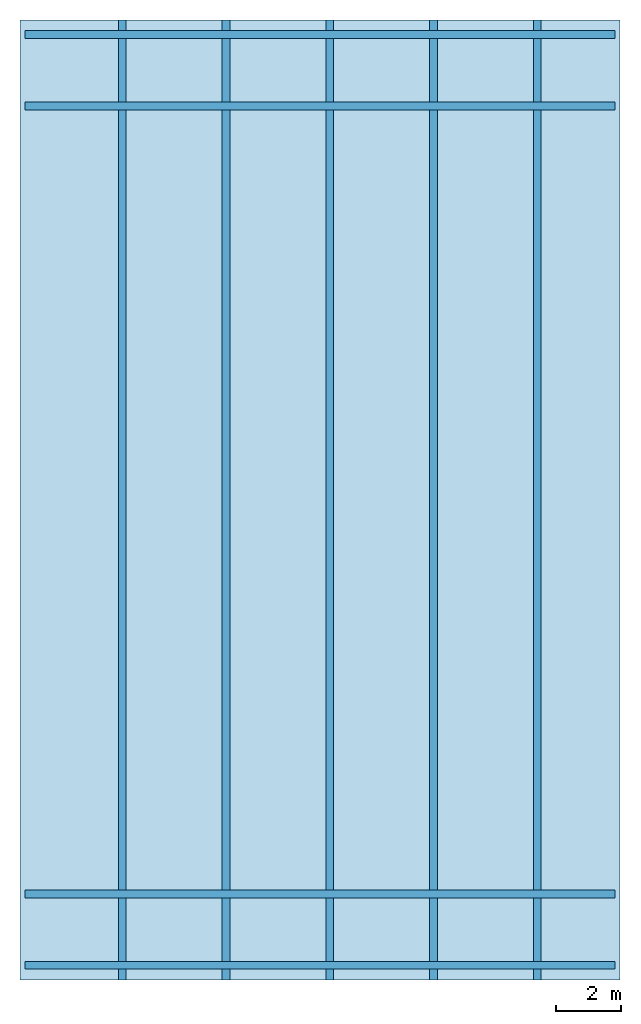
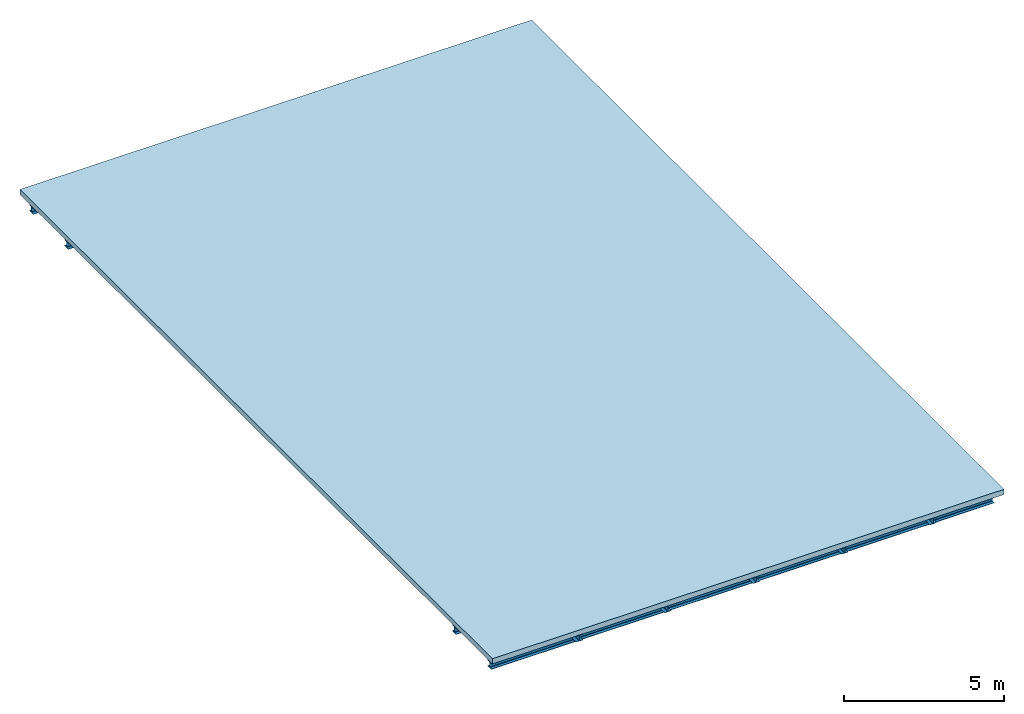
# One storey: 9 beams, 1 slab, 1 element without a shape of its own.
"""IFC2X3 building model written with IfcOpenShell, lengths in millimetres."""

from ifc_helpers import new_model, entity, si_unit, converted_unit, direction, frame, frame_2d, origin, place, context, subcontext, project, spatial, rectangle, i_section, extrude, material, layer, layer_set, type_object, element, aggregate, save


model = new_model("IFC2X3")

# Units and contexts
model_context = context("Model", 3, precision=0.01, world=origin(), true_north=direction((6.123233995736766e-17, 1.0)))
body_context = subcontext(model_context, "Body", "Model", "MODEL_VIEW")
ifc_project = project(units=[si_unit("LENGTHUNIT", "METRE", prefix="MILLI"), si_unit("AREAUNIT", "SQUARE_METRE"), converted_unit("PLANEANGLEUNIT", "DEGREE", entity("IfcPlaneAngleMeasure", 0.017453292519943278), si_unit("PLANEANGLEUNIT", "RADIAN"), dimensions=[0, 0, 0, 0, 0, 0, 0])], contexts=[model_context])

# Site, building, storey
site_placement = place(None, origin())
site = spatial("IfcSite", under=ifc_project, at=site_placement, Name="Default", CompositionType="ELEMENT")
building_placement = place(site_placement, origin())
building = spatial("IfcBuilding", under=site, at=building_placement, CompositionType="ELEMENT")
storey_placement = place(building_placement, frame((0.0, 0.0, 33630.0)))
storey = spatial("IfcBuildingStorey", under=building, at=storey_placement, Name="Dak toneeltoren", CompositionType="ELEMENT", Elevation=33629.99999999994)

# Beams
ifc_material_1 = material(Name="Staal PBTA")
beam_type_1 = type_object("IfcBeamType", Name="H-Balk:HEA240", PredefinedType="BEAM")
beam_1_placement = place(storey_placement, frame((12936.744931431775, 9731.167906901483, 0.0), z_axis=(0.0, 0.0, 1.0), x_axis=(0.0, 1.0, 0.0)))
element("IfcBeam", 1, at=beam_1_placement, inside=storey, type_object=beam_type_1, material=ifc_material_1, Name="H-Balk:HEA240", ObjectType="H-Balk:HEA240", context=body_context, shape_type="SweptSolid", body=[
    extrude(i_section(OverallWidth=240.00000000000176, OverallDepth=229.9999999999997, WebThickness=7.50000000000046, FlangeThickness=11.999999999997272, FilletRadius=20.999999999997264, at=frame_2d((0.0, -1.0871303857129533e-12), x_axis=(0.0, 1.0))), frame((0.0, 0.0, -115.0), z_axis=(1.0, 0.0, 0.0), x_axis=(0.0, 0.0, -1.0)), (0.0, 0.0, 1.0), 29600.000000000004),
])
for number, where, z_axis, x_axis, name in (
    (2, (16136.744931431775, 9731.167906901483, 0.0), (0.0, 0.0, 1.0), (0.0, 1.0, 0.0), "H-Balk:HEA240"),
    (3, (19336.744931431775, 9731.167906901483, 0.0), (0.0, 0.0, 1.0), (0.0, 1.0, 0.0), "H-Balk:HEA240"),
):
    element("IfcBeam", number, at=place(storey_placement, frame(where, z_axis=z_axis, x_axis=x_axis)), inside=storey, type_object=beam_type_1, material=ifc_material_1, Name=name, ObjectType="H-Balk:HEA240", context=body_context, shape_type="SweptSolid", body=[
        extrude(i_section(OverallWidth=240.00000000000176, OverallDepth=229.9999999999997, WebThickness=7.50000000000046, FlangeThickness=11.999999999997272, FilletRadius=20.999999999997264, at=frame_2d((0.0, 1.0871303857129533e-12), x_axis=(0.0, 1.0))), frame((0.0, 0.0, -115.0), z_axis=(1.0, 0.0, 0.0), x_axis=(0.0, 0.0, -1.0)), (0.0, 0.0, 1.0), 29600.000000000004),
    ])
beam_2_placement = place(storey_placement, frame((22536.74493143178, 9731.167906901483, 0.0), z_axis=(0.0, 0.0, 1.0), x_axis=(0.0, 1.0, 0.0)))
element("IfcBeam", 4, at=beam_2_placement, inside=storey, type_object=beam_type_1, material=ifc_material_1, Name="H-Balk:HEA240", ObjectType="H-Balk:HEA240", context=body_context, shape_type="SweptSolid", body=[
    extrude(i_section(OverallWidth=239.9999999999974, OverallDepth=229.9999999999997, WebThickness=7.500000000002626, FlangeThickness=11.999999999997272, FilletRadius=20.999999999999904, at=frame_2d((0.0, 2.1671553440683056e-12), x_axis=(0.0, 1.0))), frame((0.0, 0.0, -115.0), z_axis=(1.0, 0.0, 0.0), x_axis=(0.0, 0.0, -1.0)), (0.0, 0.0, 1.0), 29600.000000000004),
])
beam_type_2 = type_object("IfcBeamType", Name="H-Balk:HEB240", PredefinedType="BEAM")
beam_3_placement = place(storey_placement, frame((9736.744931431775, 9731.167906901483, 10.0), z_axis=(0.0, 0.0, 1.0), x_axis=(0.0, 1.0, 0.0)))
element("IfcBeam", 5, at=beam_3_placement, inside=storey, type_object=beam_type_2, material=ifc_material_1, Name="H-Balk:HEB240", ObjectType="H-Balk:HEB240", context=body_context, shape_type="SweptSolid", body=[
    extrude(i_section(OverallWidth=240.00000000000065, OverallDepth=240.00000000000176, WebThickness=9.999999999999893, FlangeThickness=17.0000000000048, FilletRadius=21.000000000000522, at=frame_2d((2.1671553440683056e-12, -1.0871303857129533e-12), x_axis=(0.0, 1.0))), frame((0.0, 0.0, -120.0), z_axis=(1.0, 0.0, 0.0), x_axis=(0.0, 0.0, -1.0)), (0.0, 0.0, 1.0), 29600.000000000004),
])
beam_4_placement = place(storey_placement, frame((6736.744931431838, 38883.66790690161, -230.0)))
element("IfcBeam", 6, at=beam_4_placement, inside=storey, type_object=beam_type_2, material=ifc_material_1, Name="H-Balk:HEB240", ObjectType="H-Balk:HEB240", context=body_context, shape_type="SweptSolid", body=[
    extrude(i_section(OverallWidth=240.00000000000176, OverallDepth=240.00000000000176, WebThickness=10.000000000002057, FlangeThickness=17.000000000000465, FilletRadius=21.000000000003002, at=frame_2d((6.501466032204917e-12, 2.1671553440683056e-12), x_axis=(0.0, 1.0))), frame((0.0, 0.0, -120.0), z_axis=(1.0, 0.0, 0.0), x_axis=(0.0, 0.0, -1.0)), (0.0, 0.0, 1.0), 18200.0),
])
beam_5_placement = place(storey_placement, frame((6736.744931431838, 36683.66790690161, -230.0)))
element("IfcBeam", 7, at=beam_5_placement, inside=storey, type_object=beam_type_2, material=ifc_material_1, Name="H-Balk:HEB240", ObjectType="H-Balk:HEB240", context=body_context, shape_type="SweptSolid", body=[
    extrude(i_section(OverallWidth=240.00000000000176, OverallDepth=240.00000000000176, WebThickness=10.000000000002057, FlangeThickness=17.000000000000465, FilletRadius=21.000000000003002, at=frame_2d((6.501466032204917e-12, -2.1671553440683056e-12), x_axis=(0.0, 1.0))), frame((0.0, 0.0, -120.0), z_axis=(1.0, 0.0, 0.0), x_axis=(0.0, 0.0, -1.0)), (0.0, 0.0, 1.0), 18200.0),
])
beam_6_placement = place(storey_placement, frame((6736.744931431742, 10183.667906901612, -230.0)))
element("IfcBeam", 8, at=beam_6_placement, inside=storey, type_object=beam_type_2, material=ifc_material_1, Name="H-Balk:HEB240", ObjectType="H-Balk:HEB240", context=body_context, shape_type="SweptSolid", body=[
    extrude(i_section(OverallWidth=239.99999999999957, OverallDepth=239.9999999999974, WebThickness=9.999999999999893, FlangeThickness=17.000000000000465, FilletRadius=21.000000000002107, at=frame_2d((4.334310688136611e-12, 1.0871303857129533e-12), x_axis=(0.0, 1.0))), frame((0.0, 0.0, -120.0), z_axis=(1.0, 0.0, 0.0), x_axis=(0.0, 0.0, -1.0)), (0.0, 0.0, 1.0), 18200.0),
])
beam_7_placement = place(storey_placement, frame((6736.744931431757, 12383.667906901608, -230.0)))
element("IfcBeam", 9, at=beam_7_placement, inside=storey, type_object=beam_type_2, material=ifc_material_1, Name="H-Balk:HEB240", ObjectType="H-Balk:HEB240", context=body_context, shape_type="SweptSolid", body=[
    extrude(i_section(OverallWidth=239.99999999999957, OverallDepth=239.9999999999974, WebThickness=9.999999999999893, FlangeThickness=17.000000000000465, FilletRadius=21.000000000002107, at=frame_2d((4.334310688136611e-12, 1.0871303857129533e-12), x_axis=(0.0, 1.0))), frame((0.0, 0.0, -120.0), z_axis=(1.0, 0.0, 0.0), x_axis=(0.0, 0.0, -1.0)), (0.0, 0.0, 1.0), 18200.000000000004),
])

# Roof, slab
ifc_material_2 = material(Name="NL_27_dak")
ifc_layer = layer(ifc_material_2, 200.0)
ifc_layer_set = layer_set([ifc_layer], Name="Basic Roof:NL_27_basis_200")
roof_placement = place(storey_placement, frame((6586.744931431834, 9731.167906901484, 0.0)))
roof = element("IfcRoof", 10, at=roof_placement, inside=storey, material=ifc_layer_set, Name="Basic Roof:NL_27_basis_200", ObjectType="Basic Roof:NL_27_basis_200", ShapeType="NOTDEFINED")
type_product = type_object("IfcTypeProduct", Name="Basic Roof:NL_27_basis_200")
slab_placement = place(roof_placement, origin())
slab = element("IfcSlab", 11, at=slab_placement, type_object=type_product, material=ifc_layer_set, Name="Basic Roof:NL_27_basis_200", ObjectType="Basic Roof:NL_27_basis_200", PredefinedType="ROOF", context=body_context, shape_type="SweptSolid", body=[
    extrude(rectangle(XDim=18504.99999999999, YDim=29599.99999999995, at=frame_2d((-1.8189894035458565e-12, 0.0), x_axis=(1.0, 0.0))), frame((9252.499999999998, 14800.0, 0.0)), (0.0, 0.0, 1.0), 200.0000000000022),
])
aggregate(roof, [slab])

save(model, "model.ifc")
